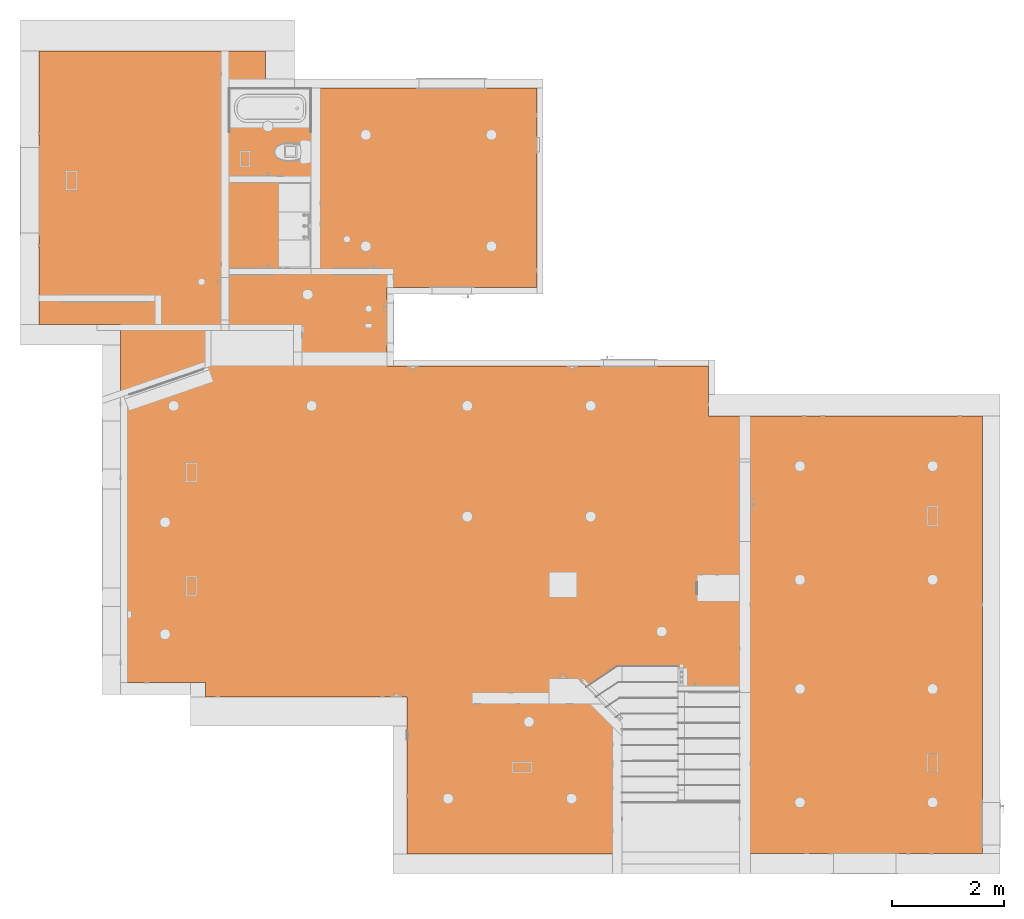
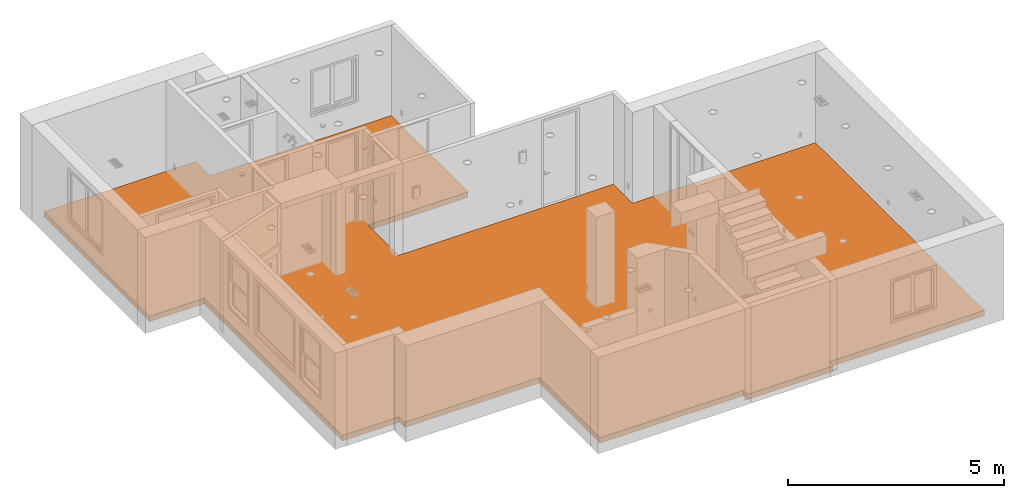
# One storey, part 38 of 48: 1 proxy.
"""IFC2X3 building model written with IfcOpenShell, lengths in inches."""

from ifc_helpers import new_model, entity, si_unit, converted_unit, derived_unit, money_unit, direction, frame, origin_with_axes, place, context, subcontext, project, spatial, faceted_brep, material, type_object, element, save


model = new_model("IFC2X3")

# Units and contexts
model_context = context("Model", 3, precision=0.00039370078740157, world=origin_with_axes(), true_north=direction((0.0, 1.0)))
plan_context = context("Plan", 3, precision=0.00039370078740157, world=origin_with_axes(), true_north=direction((0.0, 1.0)))
body_context = subcontext(model_context, "Body", "Model", "MODEL_VIEW")
ifc_project = project(units=[converted_unit("LENGTHUNIT", "INCH", entity("IfcPositiveLengthMeasure", 0.0254), si_unit("LENGTHUNIT", "METRE"), dimensions=[1, 0, 0, 0, 0, 0, 0]), converted_unit("AREAUNIT", "SQUARE_FOOT", entity("IfcPositiveLengthMeasure", 0.09290304), si_unit("AREAUNIT", "SQUARE_METRE"), dimensions=[2, 0, 0, 0, 0, 0, 0]), si_unit("PLANEANGLEUNIT", "RADIAN"), si_unit("SOLIDANGLEUNIT", "STERADIAN"), money_unit("USD"), converted_unit("TIMEUNIT", "Year", entity("IfcTimeMeasure", 31557600.0), si_unit("TIMEUNIT", "SECOND"), dimensions=[0, 0, 1, 0, 0, 0, 0]), si_unit("MASSUNIT", "GRAM", prefix="KILO"), si_unit("THERMODYNAMICTEMPERATUREUNIT", "DEGREE_CELSIUS"), si_unit("LUMINOUSINTENSITYUNIT", "LUMEN"), si_unit("ENERGYUNIT", "JOULE", prefix="MEGA"), derived_unit("SPECIFICHEATCAPACITYUNIT", [(si_unit("ENERGYUNIT", "JOULE"), 1), (si_unit("MASSUNIT", "GRAM", prefix="KILO"), -1), (si_unit("THERMODYNAMICTEMPERATUREUNIT", "KELVIN"), -1)])], contexts=[model_context, plan_context])

# Site, building, storey
site_placement = place(None, origin_with_axes())
site = spatial("IfcSite", under=ifc_project, at=site_placement, Name="Site", CompositionType="ELEMENT")
building_placement = place(site_placement, origin_with_axes())
building = spatial("IfcBuilding", under=site, at=building_placement, Name="Building", CompositionType="ELEMENT")
storey_placement = place(building_placement, origin_with_axes())
storey = spatial("IfcBuildingStorey", under=building, at=storey_placement, Name="First Floor", CompositionType="ELEMENT", Elevation=0.0)

# Proxy
ifc_material = material(Name="Generic - Structural")
building_element_proxy_type = type_object("IfcBuildingElementProxyType", Name="Generic - Structural 6\"", PredefinedType="NOTDEFINED")
proxy_placement = place(storey_placement, frame((-249.4999999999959, 386.9999957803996, 0.0), z_axis=(0.0, 0.0, 1.0), x_axis=(1.0, 0.0, 0.0)))
element("IfcBuildingElementProxy", 1, at=proxy_placement, inside=storey, type_object=building_element_proxy_type, material=ifc_material, Name="SLA - 002", context=body_context, shape_type="Brep", body=[
    faceted_brep([(57.49999403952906, 0.0, 0.0), (0.0, 0.0, 0.0), (0.0, 0.0, -5.99999999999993), (57.49999403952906, 0.0, -5.99999999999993), (159.7500067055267, 192.5000041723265, 0.0), (0.0, 192.5000041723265, 0.0), (57.49999403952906, -252.5000108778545, 0.0), (117.5000007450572, -252.4999910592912, 0.0), (117.5000007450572, -262.4999921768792, 0.0), (259.5000067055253, -262.5000020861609, 0.0), (259.5000067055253, -373.2499884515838, 0.0), (410.9999914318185, -373.2499884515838, 0.0), (410.9999914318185, -380.4999954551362, 0.0), (501.4999941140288, -380.4999954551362, 0.0), (501.4999941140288, -372.9999970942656, 0.0), (664.9999999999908, -372.9999970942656, 0.0), (664.9999999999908, -64.49999977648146, 0.0), (472.0000032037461, -64.49999977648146, 0.0), (472.0000032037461, -29.49999091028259, 0.0), (245.4999952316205, -29.49999091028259, 0.0), (245.4999952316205, 26.00000290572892, 0.0), (351.0000045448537, 26.00000290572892, 0.0), (351.0000045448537, 166.5000012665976, 0.0), (159.7500067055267, 166.5000012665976, 0.0), (0.0, 192.5000041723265, -5.99999999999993), (57.49999403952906, -252.5000108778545, -5.99999999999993), (159.7500067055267, 192.5000041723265, -5.99999999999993), (159.7500067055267, 166.5000012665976, -5.99999999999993), (351.0000045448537, 166.5000012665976, -5.99999999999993), (351.0000045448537, 26.00000290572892, -5.99999999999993), (245.4999952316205, 26.00000290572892, -5.99999999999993), (245.4999952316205, -29.49999091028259, -5.99999999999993), (472.0000032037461, -29.49999091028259, -5.99999999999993), (472.0000032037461, -64.49999977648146, -5.99999999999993), (664.9999999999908, -64.49999977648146, -5.99999999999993), (664.9999999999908, -372.9999970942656, -5.99999999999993), (501.4999941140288, -372.9999970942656, -5.99999999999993), (501.4999941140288, -380.4999954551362, -5.99999999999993), (410.9999914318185, -380.4999954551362, -5.99999999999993), (410.9999914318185, -373.2499884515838, -5.99999999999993), (259.5000067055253, -373.2499884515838, -5.99999999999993), (259.5000067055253, -262.5000020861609, -5.99999999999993), (117.5000007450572, -262.4999921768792, -5.99999999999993), (117.5000007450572, -252.4999910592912, -5.99999999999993)], [[[0, 1, 2, 3]], [[4, 5, 1, 0, 6, 7, 8, 9, 10, 11, 12, 13, 14, 15, 16, 17, 18, 19, 20, 21, 22, 23]], [[1, 5, 24, 2]], [[25, 3, 2, 24, 26, 27, 28, 29, 30, 31, 32, 33, 34, 35, 36, 37, 38, 39, 40, 41, 42, 43]], [[6, 0, 3, 25]], [[5, 4, 26, 24]], [[7, 6, 25, 43]], [[8, 7, 43, 42]], [[9, 8, 42, 41]], [[10, 9, 41, 40]], [[11, 10, 40, 39]], [[12, 11, 39, 38]], [[13, 12, 38, 37]], [[14, 13, 37, 36]], [[15, 14, 36, 35]], [[16, 15, 35, 34]], [[17, 16, 34, 33]], [[18, 17, 33, 32]], [[19, 18, 32, 31]], [[20, 19, 31, 30]], [[21, 20, 30, 29]], [[22, 21, 29, 28]], [[23, 22, 28, 27]], [[4, 23, 27, 26]]]),
])

save(model, "model.ifc")
